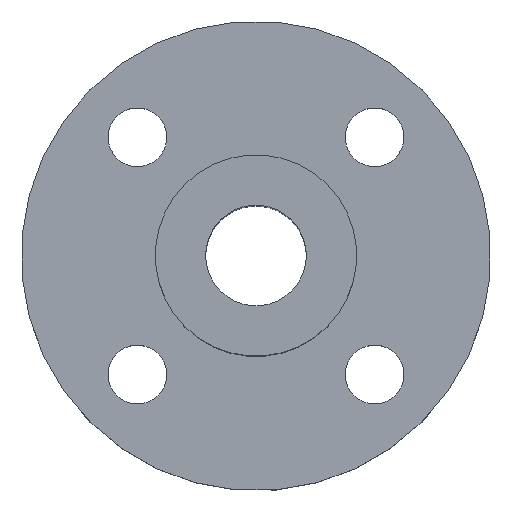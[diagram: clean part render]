
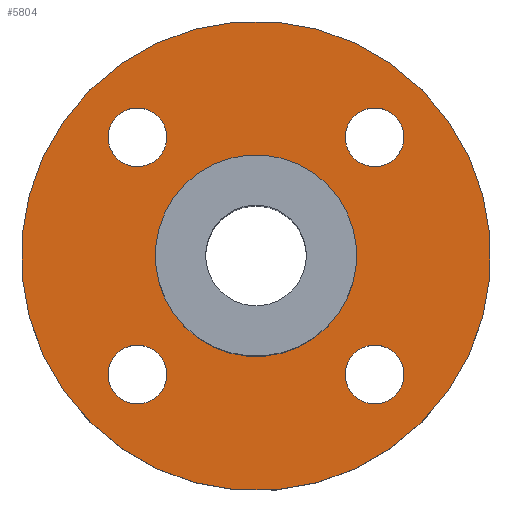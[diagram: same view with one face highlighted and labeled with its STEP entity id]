
A CAD part, top view. The second image highlights one B-rep face of the part: STEP entity #5804.
In plain terms, the highlighted planar face has unit normal (0, 0, 1).
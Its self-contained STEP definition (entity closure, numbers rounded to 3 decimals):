
#115=CIRCLE('',#6169,6.);
#119=CIRCLE('',#6177,14.);
#120=CIRCLE('',#6179,1.75);
#121=CIRCLE('',#6180,1.75);
#122=CIRCLE('',#6181,1.75);
#123=CIRCLE('',#6182,1.75);
#534=ORIENTED_EDGE('',*,*,#2204,.F.);
#535=ORIENTED_EDGE('',*,*,#2205,.F.);
#536=ORIENTED_EDGE('',*,*,#2206,.F.);
#537=ORIENTED_EDGE('',*,*,#2207,.F.);
#538=ORIENTED_EDGE('',*,*,#2199,.T.);
#539=ORIENTED_EDGE('',*,*,#2203,.T.);
#2199=EDGE_CURVE('',#3037,#3037,#115,.F.);
#2203=EDGE_CURVE('',#3041,#3041,#119,.T.);
#2204=EDGE_CURVE('',#3042,#3042,#120,.T.);
#2205=EDGE_CURVE('',#3043,#3043,#121,.T.);
#2206=EDGE_CURVE('',#3044,#3044,#122,.T.);
#2207=EDGE_CURVE('',#3045,#3045,#123,.T.);
#3037=VERTEX_POINT('',#9112);
#3041=VERTEX_POINT('',#9124);
#3042=VERTEX_POINT('',#9127);
#3043=VERTEX_POINT('',#9129);
#3044=VERTEX_POINT('',#9131);
#3045=VERTEX_POINT('',#9133);
#4764=EDGE_LOOP('',(#534));
#4765=EDGE_LOOP('',(#535));
#4766=EDGE_LOOP('',(#536));
#4767=EDGE_LOOP('',(#537));
#4768=EDGE_LOOP('',(#538));
#4769=EDGE_LOOP('',(#539));
#5180=FACE_BOUND('',#4764,.T.);
#5181=FACE_BOUND('',#4765,.T.);
#5182=FACE_BOUND('',#4766,.T.);
#5183=FACE_BOUND('',#4767,.T.);
#5184=FACE_BOUND('',#4768,.T.);
#5185=FACE_BOUND('',#4769,.T.);
#5539=PLANE('',#6178);
#5804=ADVANCED_FACE('',(#5180,#5181,#5182,#5183,#5184,#5185),#5539,.T.);
#6169=AXIS2_PLACEMENT_3D('',#9111,#6699,#6700);
#6177=AXIS2_PLACEMENT_3D('',#9123,#6715,#6716);
#6178=AXIS2_PLACEMENT_3D('',#9125,#6717,#6718);
#6179=AXIS2_PLACEMENT_3D('',#9126,#6719,#6720);
#6180=AXIS2_PLACEMENT_3D('',#9128,#6721,#6722);
#6181=AXIS2_PLACEMENT_3D('',#9130,#6723,#6724);
#6182=AXIS2_PLACEMENT_3D('',#9132,#6725,#6726);
#6699=DIRECTION('',(0.,0.,1.));
#6700=DIRECTION('',(0.707,-0.707,0.));
#6715=DIRECTION('',(0.,0.,1.));
#6716=DIRECTION('',(0.707,-0.707,0.));
#6717=DIRECTION('',(0.,0.,1.));
#6718=DIRECTION('',(0.707,-0.707,0.));
#6719=DIRECTION('',(0.,0.,1.));
#6720=DIRECTION('',(0.707,-0.707,0.));
#6721=DIRECTION('',(0.,0.,1.));
#6722=DIRECTION('',(0.707,-0.707,0.));
#6723=DIRECTION('',(0.,0.,1.));
#6724=DIRECTION('',(0.707,-0.707,0.));
#6725=DIRECTION('',(0.,0.,1.));
#6726=DIRECTION('',(0.707,-0.707,0.));
#9111=CARTESIAN_POINT('',(0.,0.,0.));
#9112=CARTESIAN_POINT('',(4.243,-4.243,0.));
#9123=CARTESIAN_POINT('',(0.,0.,0.));
#9124=CARTESIAN_POINT('',(9.899,-9.899,0.));
#9125=CARTESIAN_POINT('',(0.,0.,0.));
#9126=CARTESIAN_POINT('',(7.071,7.071,0.));
#9127=CARTESIAN_POINT('',(8.309,5.834,0.));
#9128=CARTESIAN_POINT('',(-7.071,7.071,0.));
#9129=CARTESIAN_POINT('',(-5.834,5.834,0.));
#9130=CARTESIAN_POINT('',(-7.071,-7.071,0.));
#9131=CARTESIAN_POINT('',(-5.834,-8.309,0.));
#9132=CARTESIAN_POINT('',(7.071,-7.071,0.));
#9133=CARTESIAN_POINT('',(8.309,-8.309,0.));
